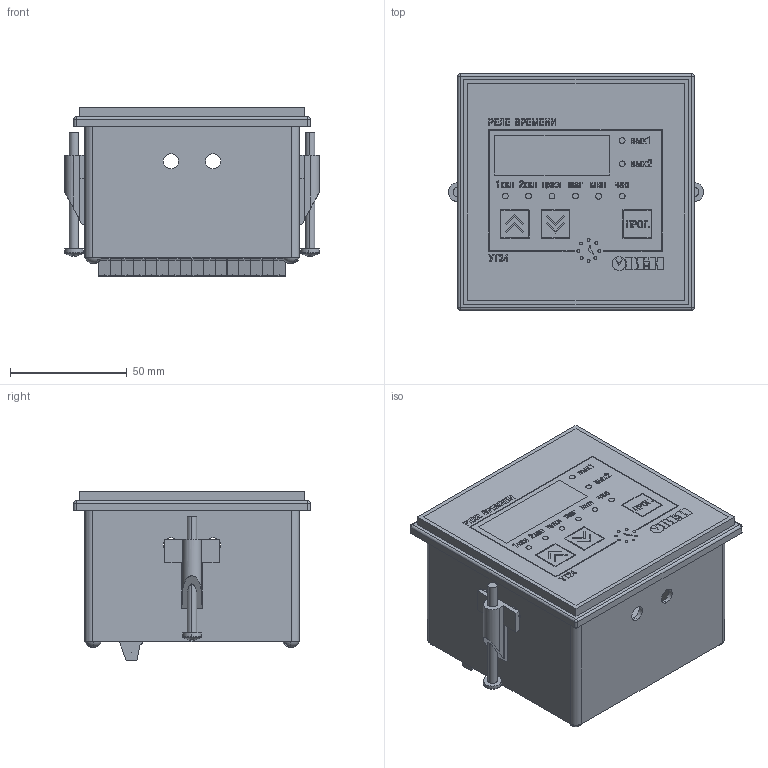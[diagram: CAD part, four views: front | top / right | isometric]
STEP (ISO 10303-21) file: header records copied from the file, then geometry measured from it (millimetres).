
FILE_DESCRIPTION (( 'STEP AP214' ), '1' );
FILE_NAME ('ﾓﾒ24ﾙ1.STEP', '2015-06-06T17:24:40', ( 'Vika' ), ( '' ), 'SwSTEP 2.0', 'SolidWorks 2014', '' );
FILE_SCHEMA (( 'AUTOMOTIVE_DESIGN' ));
Length unit declared in the file: millimetre
Products named in the file (7): ÓÒ24Ù1_Êîðïóñ ÓÒ24_Ù1; 妈眚 󊅝0_B18.6.7M - M4 x 0.7 x 40 Type I Cross Recessed PHMS --40N; ÓÒ24Ù1_Ñòîïîð âèíòîâîé; ﾓﾒ24ﾙ1; ÓÒ24Ù1_Êëåììà âèíòîâàÿ; ÓÒ24Ù1_Ðåçèíà  96õ96; ÓÒ24Ù1_Øèëüäèê_Ù1
Assembly tree (23 placements, depth 2):
  ﾓﾒ24ﾙ1
    ÓÒ24Ù1_Êîðïóñ ÓÒ24_Ù1
    ÓÒ24Ù1_Øèëüäèê_Ù1
    ÓÒ24Ù1_Êëåììà âèíòîâàÿ  x16
    ÓÒ24Ù1_Ñòîïîð âèíòîâîé  x2
    妈眚 󊅝0_B18.6.7M - M4 x 0.7 x 40 Type I Cross Recessed PHMS --40N  x2
    ÓÒ24Ù1_Ðåçèíà  96õ96
Bounding box: 109 x 101 x 72.25 mm (x, y, z)
Volume: 131902.8 mm3; surface area: 118206.3 mm2
Topology: 45 solids, 45 shells, 1928 faces, 4991 edges, 3278 vertices
Faces by surface type: plane 1372, bspline 310, cylinder 226, torus 12, sphere 8
Entity records: 50782 total; most frequent: CARTESIAN_POINT 10703, ORIENTED_EDGE 6222, DIRECTION 4455, EDGE_CURVE 3111, LINE 2315, VECTOR 2315, VERTEX_POINT 2062, EDGE_LOOP 1321
